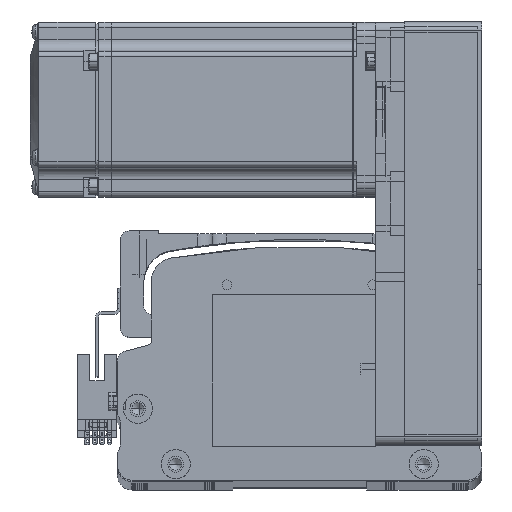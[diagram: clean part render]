
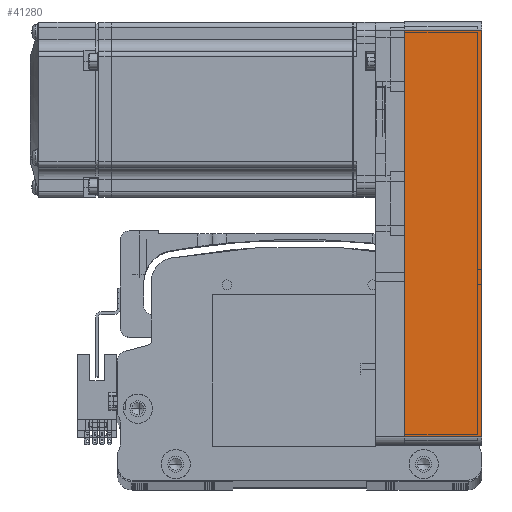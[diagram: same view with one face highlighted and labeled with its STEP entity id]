
A CAD part, top view. The second image highlights one B-rep face of the part: STEP entity #41280.
In plain terms, the highlighted planar face has unit normal (0, 0, 1) as drawn and (0, 1, 0) by its records, which use the part's own axes.
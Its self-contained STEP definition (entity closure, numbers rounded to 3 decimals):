
#2718 = EDGE_CURVE ( 'NONE', #80973, #48356, #40700, .T. ) ;
#5850 = AXIS2_PLACEMENT_3D ( 'NONE', #40209, #88004, #47109 ) ;
#7950 = DIRECTION ( 'NONE',  ( 0., 0., 1. ) ) ;
#10776 = ORIENTED_EDGE ( 'NONE', *, *, #57781, .T. ) ;
#10843 = ORIENTED_EDGE ( 'NONE', *, *, #27194, .T. ) ;
#14776 = ORIENTED_EDGE ( 'NONE', *, *, #74354, .F. ) ;
#14965 = LINE ( 'NONE', #82412, #51189 ) ;
#22615 = VECTOR ( 'NONE', #80932, 1000. ) ;
#27194 = EDGE_CURVE ( 'NONE', #65004, #80973, #71610, .T. ) ;
#30673 = ORIENTED_EDGE ( 'NONE', *, *, #2718, .T. ) ;
#32707 = CARTESIAN_POINT ( 'NONE',  ( 69.5, 30., 0. ) ) ;
#32873 = CARTESIAN_POINT ( 'NONE',  ( -69.5, 30., 26.5 ) ) ;
#34156 = VECTOR ( 'NONE', #7950, 1000. ) ;
#39678 = CARTESIAN_POINT ( 'NONE',  ( -69.5, 30., 0. ) ) ;
#40209 = CARTESIAN_POINT ( 'NONE',  ( 72.5, 30., 26.5 ) ) ;
#40700 = LINE ( 'NONE', #53508, #22615 ) ;
#41280 = ADVANCED_FACE ( 'NONE', ( #50547 ), #53686, .F. ) ;
#41815 = CARTESIAN_POINT ( 'NONE',  ( -69.5, 30., 26.5 ) ) ;
#43405 = DIRECTION ( 'NONE',  ( 0., 0., -1. ) ) ;
#47109 = DIRECTION ( 'NONE',  ( 1., 0., 0. ) ) ;
#48356 = VERTEX_POINT ( 'NONE', #39678 ) ;
#48414 = DIRECTION ( 'NONE',  ( -1., 0., 0. ) ) ;
#50547 = FACE_OUTER_BOUND ( 'NONE', #86536, .T. ) ;
#51189 = VECTOR ( 'NONE', #48414, 1000. ) ;
#52257 = LINE ( 'NONE', #41815, #34156 ) ;
#53444 = VECTOR ( 'NONE', #43405, 1000. ) ;
#53508 = CARTESIAN_POINT ( 'NONE',  ( 72.5, 30., 0. ) ) ;
#53686 = PLANE ( 'NONE',  #5850 ) ;
#57781 = EDGE_CURVE ( 'NONE', #48356, #86369, #52257, .T. ) ;
#65004 = VERTEX_POINT ( 'NONE', #82719 ) ;
#71610 = LINE ( 'NONE', #84370, #53444 ) ;
#74354 = EDGE_CURVE ( 'NONE', #65004, #86369, #14965, .T. ) ;
#80932 = DIRECTION ( 'NONE',  ( -1., 0., 0. ) ) ;
#80973 = VERTEX_POINT ( 'NONE', #32707 ) ;
#82412 = CARTESIAN_POINT ( 'NONE',  ( 72.5, 30., 26.5 ) ) ;
#82719 = CARTESIAN_POINT ( 'NONE',  ( 69.5, 30., 26.5 ) ) ;
#84370 = CARTESIAN_POINT ( 'NONE',  ( 69.5, 30., 26.5 ) ) ;
#86369 = VERTEX_POINT ( 'NONE', #32873 ) ;
#86536 = EDGE_LOOP ( 'NONE', ( #30673, #10776, #14776, #10843 ) ) ;
#88004 = DIRECTION ( 'NONE',  ( 0., -1., 0. ) ) ;
